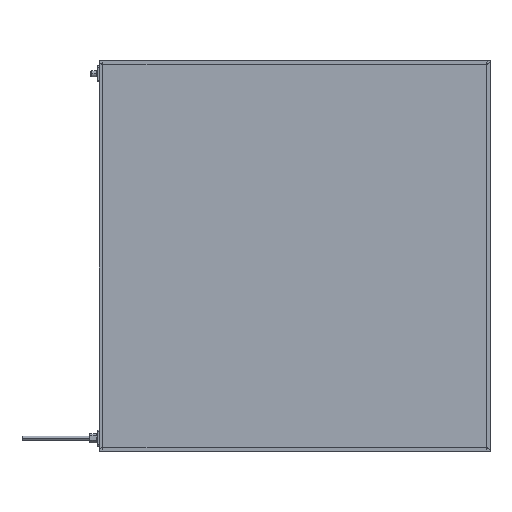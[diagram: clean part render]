
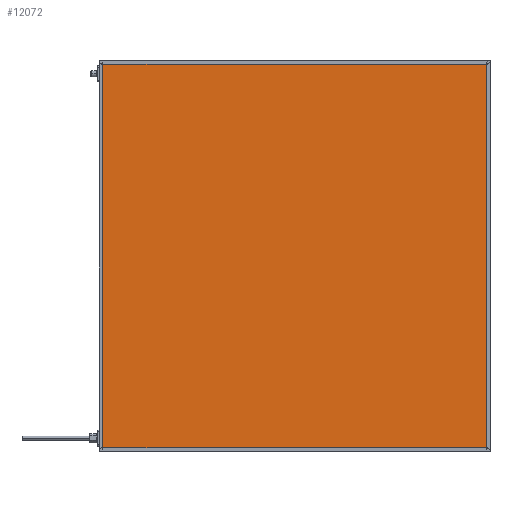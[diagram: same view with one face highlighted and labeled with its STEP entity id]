
A CAD part, top view. The second image highlights one B-rep face of the part: STEP entity #12072.
In plain terms, the highlighted planar face has unit normal (0, 0, 1).
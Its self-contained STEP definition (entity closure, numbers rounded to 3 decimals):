
#817 = VERTEX_POINT ( 'NONE', #10195 ) ;
#1234 = DIRECTION ( 'NONE',  ( 1., 0., 0. ) ) ;
#2445 = EDGE_CURVE ( 'NONE', #817, #14981, #16865, .T. ) ;
#2715 = CARTESIAN_POINT ( 'NONE',  ( 796., 4., 41.85 ) ) ;
#2747 = LINE ( 'NONE', #12496, #9702 ) ;
#2912 = EDGE_CURVE ( 'NONE', #14981, #17097, #5169, .T. ) ;
#3153 = VERTEX_POINT ( 'NONE', #5060 ) ;
#3207 = PLANE ( 'NONE',  #16924 ) ;
#3270 = DIRECTION ( 'NONE',  ( 0., -1., 0. ) ) ;
#4030 = EDGE_CURVE ( 'NONE', #3153, #817, #17749, .T. ) ;
#4398 = CARTESIAN_POINT ( 'NONE',  ( 0., 0., 41.85 ) ) ;
#5060 = CARTESIAN_POINT ( 'NONE',  ( 796., 796., 41.85 ) ) ;
#5169 = LINE ( 'NONE', #11078, #10446 ) ;
#5631 = ORIENTED_EDGE ( 'NONE', *, *, #2445, .T. ) ;
#6682 = VECTOR ( 'NONE', #10984, 1000. ) ;
#7204 = DIRECTION ( 'NONE',  ( 0., 0., -1. ) ) ;
#8163 = VECTOR ( 'NONE', #3270, 1000. ) ;
#9599 = EDGE_LOOP ( 'NONE', ( #14922, #10434, #5631, #14722 ) ) ;
#9623 = CARTESIAN_POINT ( 'NONE',  ( 0., 796., 41.85 ) ) ;
#9702 = VECTOR ( 'NONE', #17899, 1000. ) ;
#10195 = CARTESIAN_POINT ( 'NONE',  ( 4., 796., 41.85 ) ) ;
#10434 = ORIENTED_EDGE ( 'NONE', *, *, #4030, .T. ) ;
#10446 = VECTOR ( 'NONE', #1234, 1000. ) ;
#10984 = DIRECTION ( 'NONE',  ( -1., 0., 0. ) ) ;
#11078 = CARTESIAN_POINT ( 'NONE',  ( 0., 4., 41.85 ) ) ;
#12072 = ADVANCED_FACE ( 'NONE', ( #12597 ), #3207, .F. ) ;
#12496 = CARTESIAN_POINT ( 'NONE',  ( 796., 0., 41.85 ) ) ;
#12597 = FACE_OUTER_BOUND ( 'NONE', #9599, .T. ) ;
#12778 = DIRECTION ( 'NONE',  ( -1., 0., 0. ) ) ;
#13024 = CARTESIAN_POINT ( 'NONE',  ( 4., 0., 41.85 ) ) ;
#13960 = CARTESIAN_POINT ( 'NONE',  ( 4., 4., 41.85 ) ) ;
#14722 = ORIENTED_EDGE ( 'NONE', *, *, #2912, .T. ) ;
#14922 = ORIENTED_EDGE ( 'NONE', *, *, #14966, .T. ) ;
#14966 = EDGE_CURVE ( 'NONE', #17097, #3153, #2747, .T. ) ;
#14981 = VERTEX_POINT ( 'NONE', #13960 ) ;
#16865 = LINE ( 'NONE', #13024, #8163 ) ;
#16924 = AXIS2_PLACEMENT_3D ( 'NONE', #4398, #7204, #12778 ) ;
#17097 = VERTEX_POINT ( 'NONE', #2715 ) ;
#17749 = LINE ( 'NONE', #9623, #6682 ) ;
#17899 = DIRECTION ( 'NONE',  ( 0., 1., 0. ) ) ;
